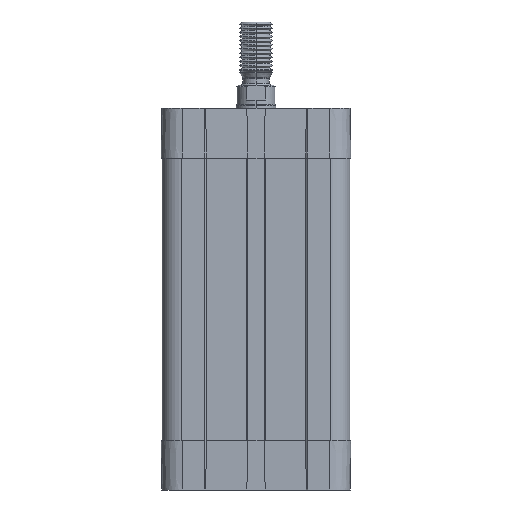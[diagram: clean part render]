
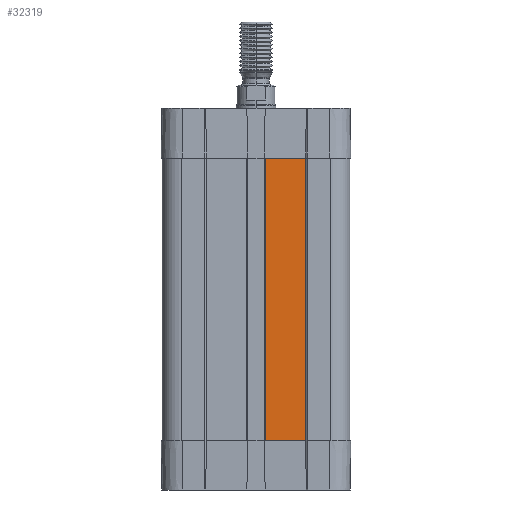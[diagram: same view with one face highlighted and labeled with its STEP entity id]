
A CAD part, left-side view. The second image highlights one B-rep face of the part: STEP entity #32319.
In plain terms, the highlighted planar face has unit normal (-1, 0, 0).
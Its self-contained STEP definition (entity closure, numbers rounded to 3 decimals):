
#5877 = DIRECTION ( 'NONE',  ( 0., 0., 1. ) ) ;
#5878 = VECTOR ( 'NONE', #5877, 1000. ) ;
#5879 = CARTESIAN_POINT ( 'NONE',  ( -27.6, -2.85, -85. ) ) ;
#5880 = LINE ( 'NONE', #5879, #5878 ) ;
#5902 = CARTESIAN_POINT ( 'NONE',  ( -27.6, -2.85, 0. ) ) ;
#6014 = DIRECTION ( 'NONE',  ( 0., -1., 0. ) ) ;
#6015 = VECTOR ( 'NONE', #6014, 1000. ) ;
#6016 = CARTESIAN_POINT ( 'NONE',  ( -27.6, -2.85, 0. ) ) ;
#6017 = LINE ( 'NONE', #6016, #6015 ) ;
#10284 = ORIENTED_EDGE ( 'NONE', *, *, #13232, .T. ) ;
#10449 = ORIENTED_EDGE ( 'NONE', *, *, #32577, .T. ) ;
#10730 = VERTEX_POINT ( 'NONE', #20928 ) ;
#13232 = EDGE_CURVE ( 'NONE', #10730, #32391, #21382, .T. ) ;
#17050 = VERTEX_POINT ( 'NONE', #5902 ) ;
#17068 = ORIENTED_EDGE ( 'NONE', *, *, #17073, .F. ) ;
#17073 = EDGE_CURVE ( 'NONE', #10730, #17050, #5880, .T. ) ;
#17151 = EDGE_CURVE ( 'NONE', #17050, #32537, #6017, .T. ) ;
#20928 = CARTESIAN_POINT ( 'NONE',  ( -27.6, -2.85, -85. ) ) ;
#21379 = DIRECTION ( 'NONE',  ( 0., -1., 0. ) ) ;
#21380 = VECTOR ( 'NONE', #21379, 1000. ) ;
#21381 = CARTESIAN_POINT ( 'NONE',  ( -27.6, -2.85, -85. ) ) ;
#21382 = LINE ( 'NONE', #21381, #21380 ) ;
#28580 = DIRECTION ( 'NONE',  ( 0., 0., 1. ) ) ;
#28581 = DIRECTION ( 'NONE',  ( -1., 0., 0. ) ) ;
#28582 = CARTESIAN_POINT ( 'NONE',  ( -27.6, -2.85, -85. ) ) ;
#28583 = AXIS2_PLACEMENT_3D ( 'NONE', #28582, #28581, #28580 ) ;
#28584 = PLANE ( 'NONE',  #28583 ) ;
#28586 = FACE_OUTER_BOUND ( 'NONE', #30745, .T. ) ;
#28710 = CARTESIAN_POINT ( 'NONE',  ( -27.6, -14.9, -85. ) ) ;
#29042 = CARTESIAN_POINT ( 'NONE',  ( -27.6, -14.9, 0. ) ) ;
#29095 = DIRECTION ( 'NONE',  ( 0., 0., 1. ) ) ;
#29096 = VECTOR ( 'NONE', #29095, 1000. ) ;
#29097 = CARTESIAN_POINT ( 'NONE',  ( -27.6, -14.9, -85. ) ) ;
#29098 = LINE ( 'NONE', #29097, #29096 ) ;
#30657 = ORIENTED_EDGE ( 'NONE', *, *, #17151, .F. ) ;
#30745 = EDGE_LOOP ( 'NONE', ( #30657, #17068, #10284, #10449 ) ) ;
#32319 = ADVANCED_FACE ( 'NONE', ( #28586 ), #28584, .T. ) ;
#32391 = VERTEX_POINT ( 'NONE', #28710 ) ;
#32537 = VERTEX_POINT ( 'NONE', #29042 ) ;
#32577 = EDGE_CURVE ( 'NONE', #32391, #32537, #29098, .T. ) ;
